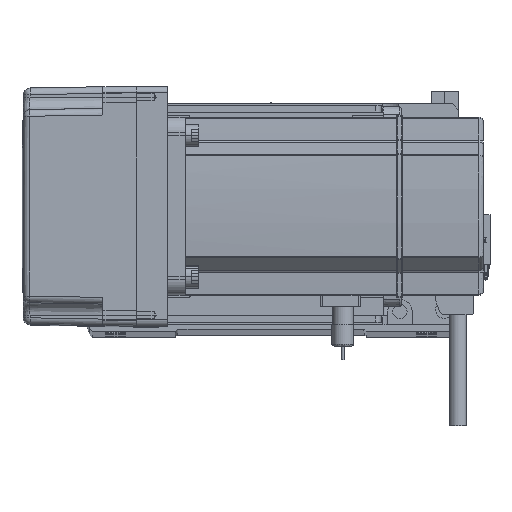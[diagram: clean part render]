
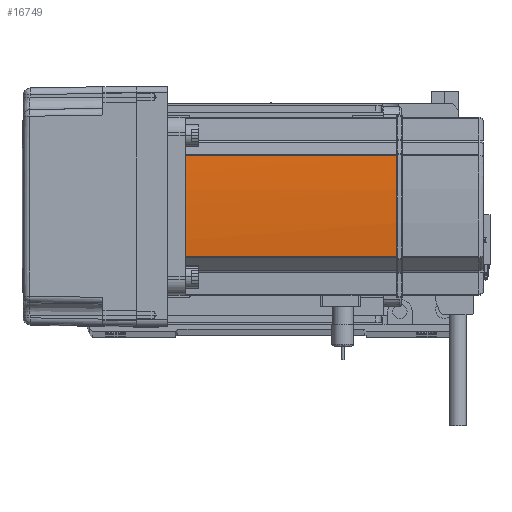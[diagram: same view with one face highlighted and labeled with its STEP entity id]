
A CAD part, top view. The second image highlights one B-rep face of the part: STEP entity #16749.
In plain terms, the highlighted cylindrical face has radius 270 mm (diameter 540 mm), a partial arc.
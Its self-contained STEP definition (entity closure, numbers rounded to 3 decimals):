
#2649 = DIRECTION ( 'NONE',  ( 0., 0., -1. ) ) ;
#3017 = CARTESIAN_POINT ( 'NONE',  ( -230., 0., 134. ) ) ;
#3383 = VERTEX_POINT ( 'NONE', #42547 ) ;
#3825 = DIRECTION ( 'NONE',  ( 0., 0., -1. ) ) ;
#4425 = VERTEX_POINT ( 'NONE', #25287 ) ;
#7678 = DIRECTION ( 'NONE',  ( -1., 0., 0. ) ) ;
#8857 = CIRCLE ( 'NONE', #9429, 270. ) ;
#9429 = AXIS2_PLACEMENT_3D ( 'NONE', #39059, #2649, #7678 ) ;
#10526 = DIRECTION ( 'NONE',  ( 0., 0., 1. ) ) ;
#11256 = ORIENTED_EDGE ( 'NONE', *, *, #44536, .T. ) ;
#13523 = ORIENTED_EDGE ( 'NONE', *, *, #15133, .F. ) ;
#13811 = AXIS2_PLACEMENT_3D ( 'NONE', #23112, #23317, #18907 ) ;
#15133 = EDGE_CURVE ( 'NONE', #4425, #17163, #27733, .T. ) ;
#15178 = CARTESIAN_POINT ( 'NONE',  ( 39.042, -22.724, 58. ) ) ;
#15727 = DIRECTION ( 'NONE',  ( -1., 0., 0. ) ) ;
#16749 = ADVANCED_FACE ( 'NONE', ( #52784 ), #21114, .T. ) ;
#17163 = VERTEX_POINT ( 'NONE', #28327 ) ;
#17865 = CIRCLE ( 'NONE', #35985, 270. ) ;
#18907 = DIRECTION ( 'NONE',  ( -1., 0., 0. ) ) ;
#19859 = CARTESIAN_POINT ( 'NONE',  ( 40., -0.042, 134. ) ) ;
#21114 = CYLINDRICAL_SURFACE ( 'NONE', #53324, 270. ) ;
#21534 = DIRECTION ( 'NONE',  ( -1., 0., 0. ) ) ;
#23112 = CARTESIAN_POINT ( 'NONE',  ( -230., 0., 134. ) ) ;
#23317 = DIRECTION ( 'NONE',  ( 0., 0., -1. ) ) ;
#25287 = CARTESIAN_POINT ( 'NONE',  ( 40., -0.127, 134. ) ) ;
#27285 = CARTESIAN_POINT ( 'NONE',  ( 39.042, -22.724, 39. ) ) ;
#27393 = CIRCLE ( 'NONE', #13811, 270. ) ;
#27491 = LINE ( 'NONE', #15178, #28204 ) ;
#27733 = B_SPLINE_CURVE_WITH_KNOTS ( 'NONE', 3,
 ( #56018, #19859, #47201, #29089 ),
 .UNSPECIFIED., .F., .F.,
 ( 4, 4 ),
 ( 0., 1. ),
 .UNSPECIFIED. ) ;
#27776 = VERTEX_POINT ( 'NONE', #58390 ) ;
#28204 = VECTOR ( 'NONE', #56571, 1000. ) ;
#28327 = CARTESIAN_POINT ( 'NONE',  ( 40., 0.127, 134. ) ) ;
#28785 = DIRECTION ( 'NONE',  ( 0., 0., -1. ) ) ;
#29089 = CARTESIAN_POINT ( 'NONE',  ( 40., 0.127, 134. ) ) ;
#31317 = EDGE_LOOP ( 'NONE', ( #38381, #50111, #54629, #59547, #13523, #11256 ) ) ;
#34297 = EDGE_CURVE ( 'NONE', #47909, #17163, #17865, .T. ) ;
#35750 = LINE ( 'NONE', #42703, #52329 ) ;
#35985 = AXIS2_PLACEMENT_3D ( 'NONE', #3017, #3825, #21534 ) ;
#36477 = CARTESIAN_POINT ( 'NONE',  ( 39.042, 22.724, 134. ) ) ;
#38381 = ORIENTED_EDGE ( 'NONE', *, *, #49915, .T. ) ;
#39059 = CARTESIAN_POINT ( 'NONE',  ( -230., 0., 39. ) ) ;
#42547 = CARTESIAN_POINT ( 'NONE',  ( 39.042, 22.724, 39. ) ) ;
#42703 = CARTESIAN_POINT ( 'NONE',  ( 39.042, 22.724, 58. ) ) ;
#43261 = CARTESIAN_POINT ( 'NONE',  ( -230., 0., 58. ) ) ;
#44536 = EDGE_CURVE ( 'NONE', #4425, #27776, #27393, .T. ) ;
#46930 = EDGE_CURVE ( 'NONE', #3383, #47909, #35750, .T. ) ;
#47201 = CARTESIAN_POINT ( 'NONE',  ( 40., 0.042, 134. ) ) ;
#47909 = VERTEX_POINT ( 'NONE', #36477 ) ;
#49915 = EDGE_CURVE ( 'NONE', #27776, #55012, #27491, .T. ) ;
#50111 = ORIENTED_EDGE ( 'NONE', *, *, #57908, .F. ) ;
#52329 = VECTOR ( 'NONE', #10526, 1000. ) ;
#52784 = FACE_OUTER_BOUND ( 'NONE', #31317, .T. ) ;
#53324 = AXIS2_PLACEMENT_3D ( 'NONE', #43261, #28785, #15727 ) ;
#54629 = ORIENTED_EDGE ( 'NONE', *, *, #46930, .T. ) ;
#55012 = VERTEX_POINT ( 'NONE', #27285 ) ;
#56018 = CARTESIAN_POINT ( 'NONE',  ( 40., -0.127, 134. ) ) ;
#56571 = DIRECTION ( 'NONE',  ( 0., 0., -1. ) ) ;
#57908 = EDGE_CURVE ( 'NONE', #3383, #55012, #8857, .T. ) ;
#58390 = CARTESIAN_POINT ( 'NONE',  ( 39.042, -22.724, 134. ) ) ;
#59547 = ORIENTED_EDGE ( 'NONE', *, *, #34297, .T. ) ;
